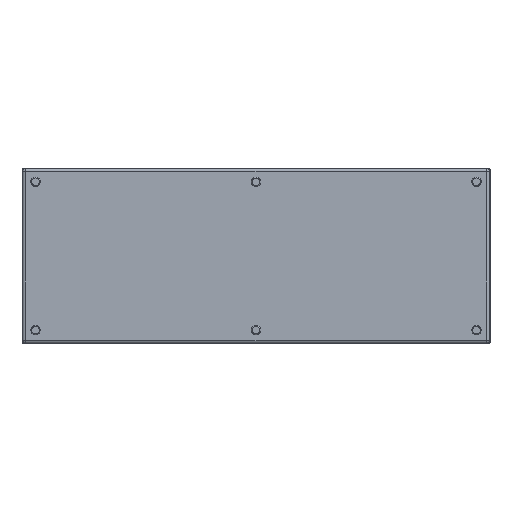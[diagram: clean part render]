
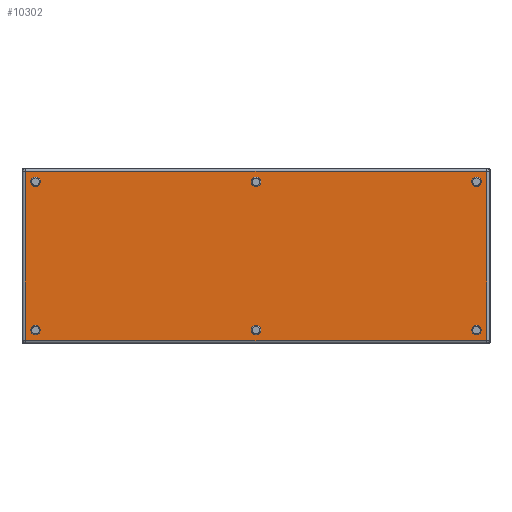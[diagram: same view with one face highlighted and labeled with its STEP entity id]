
A CAD part, top view. The second image highlights one B-rep face of the part: STEP entity #10302.
In plain terms, the highlighted planar face has unit normal (0, 0, 1).
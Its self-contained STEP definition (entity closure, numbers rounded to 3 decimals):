
#48 = DIRECTION ( 'NONE',  ( -1., 0., 0. ) ) ;
#67 = EDGE_CURVE ( 'NONE', #8095, #8095, #1846, .T. ) ;
#163 = CARTESIAN_POINT ( 'NONE',  ( -384.8, 126.8, 0. ) ) ;
#200 = EDGE_LOOP ( 'NONE', ( #3136 ) ) ;
#438 = DIRECTION ( 'NONE',  ( 0., 0., 1. ) ) ;
#527 = CIRCLE ( 'NONE', #9527, 0.8 ) ;
#556 = FACE_OUTER_BOUND ( 'NONE', #2582, .T. ) ;
#633 = DIRECTION ( 'NONE',  ( 0., 0., 1. ) ) ;
#995 = ORIENTED_EDGE ( 'NONE', *, *, #5868, .T. ) ;
#1022 = CIRCLE ( 'NONE', #7042, 8. ) ;
#1077 = CIRCLE ( 'NONE', #3826, 0.8 ) ;
#1103 = AXIS2_PLACEMENT_3D ( 'NONE', #4346, #5182, #2823 ) ;
#1149 = EDGE_CURVE ( 'NONE', #3422, #3422, #3436, .T. ) ;
#1161 = VERTEX_POINT ( 'NONE', #6690 ) ;
#1179 = EDGE_LOOP ( 'NONE', ( #7418 ) ) ;
#1259 = EDGE_LOOP ( 'NONE', ( #1441 ) ) ;
#1289 = CARTESIAN_POINT ( 'NONE',  ( -8., -126.8, 0. ) ) ;
#1333 = LINE ( 'NONE', #5635, #5962 ) ;
#1439 = EDGE_CURVE ( 'NONE', #8204, #8204, #1022, .T. ) ;
#1441 = ORIENTED_EDGE ( 'NONE', *, *, #4759, .F. ) ;
#1484 = CARTESIAN_POINT ( 'NONE',  ( 394., 144., 0. ) ) ;
#1521 = CARTESIAN_POINT ( 'NONE',  ( -394.8, -144., 0. ) ) ;
#1615 = ORIENTED_EDGE ( 'NONE', *, *, #7168, .T. ) ;
#1678 = ORIENTED_EDGE ( 'NONE', *, *, #5091, .T. ) ;
#1846 = CIRCLE ( 'NONE', #3225, 8. ) ;
#1860 = CARTESIAN_POINT ( 'NONE',  ( -394., 144.8, 0. ) ) ;
#1891 = DIRECTION ( 'NONE',  ( -1., 0., 0. ) ) ;
#1933 = ORIENTED_EDGE ( 'NONE', *, *, #10248, .T. ) ;
#1994 = FACE_BOUND ( 'NONE', #200, .T. ) ;
#1995 = CARTESIAN_POINT ( 'NONE',  ( -394., -144., 0. ) ) ;
#2048 = FACE_BOUND ( 'NONE', #8635, .T. ) ;
#2049 = DIRECTION ( 'NONE',  ( 0., 0., 1. ) ) ;
#2199 = LINE ( 'NONE', #3975, #7664 ) ;
#2201 = DIRECTION ( 'NONE',  ( -1., 0., 0. ) ) ;
#2289 = EDGE_CURVE ( 'NONE', #10183, #10183, #2620, .T. ) ;
#2413 = CARTESIAN_POINT ( 'NONE',  ( 0., 126.8, 0. ) ) ;
#2443 = EDGE_CURVE ( 'NONE', #1161, #3205, #1077, .T. ) ;
#2471 = ORIENTED_EDGE ( 'NONE', *, *, #2443, .T. ) ;
#2510 = VERTEX_POINT ( 'NONE', #9829 ) ;
#2582 = EDGE_LOOP ( 'NONE', ( #2471, #4793, #5721, #995, #6500, #1933, #1678, #1615 ) ) ;
#2620 = CIRCLE ( 'NONE', #6228, 8. ) ;
#2823 = DIRECTION ( 'NONE',  ( -1., 0., 0. ) ) ;
#2879 = EDGE_CURVE ( 'NONE', #8971, #9799, #527, .T. ) ;
#2976 = DIRECTION ( 'NONE',  ( -1., 0., 0. ) ) ;
#3108 = ORIENTED_EDGE ( 'NONE', *, *, #2289, .T. ) ;
#3136 = ORIENTED_EDGE ( 'NONE', *, *, #1439, .T. ) ;
#3205 = VERTEX_POINT ( 'NONE', #9533 ) ;
#3225 = AXIS2_PLACEMENT_3D ( 'NONE', #9466, #6162, #6107 ) ;
#3253 = CARTESIAN_POINT ( 'NONE',  ( 376.8, -126.8, 0. ) ) ;
#3274 = AXIS2_PLACEMENT_3D ( 'NONE', #8808, #8573, #5322 ) ;
#3422 = VERTEX_POINT ( 'NONE', #4854 ) ;
#3436 = CIRCLE ( 'NONE', #5305, 8. ) ;
#3533 = VERTEX_POINT ( 'NONE', #1860 ) ;
#3592 = EDGE_LOOP ( 'NONE', ( #9910 ) ) ;
#3743 = CARTESIAN_POINT ( 'NONE',  ( 368.8, 126.8, 0. ) ) ;
#3826 = AXIS2_PLACEMENT_3D ( 'NONE', #4792, #6407, #9771 ) ;
#3834 = CARTESIAN_POINT ( 'NONE',  ( -376.8, -126.8, 0. ) ) ;
#3854 = FACE_BOUND ( 'NONE', #9112, .T. ) ;
#3917 = CARTESIAN_POINT ( 'NONE',  ( -394.8, -144., 0. ) ) ;
#3975 = CARTESIAN_POINT ( 'NONE',  ( -394., 144.8, 0. ) ) ;
#4139 = VERTEX_POINT ( 'NONE', #7408 ) ;
#4238 = VERTEX_POINT ( 'NONE', #7402 ) ;
#4292 = ORIENTED_EDGE ( 'NONE', *, *, #67, .T. ) ;
#4346 = CARTESIAN_POINT ( 'NONE',  ( -394., 144., 0. ) ) ;
#4552 = AXIS2_PLACEMENT_3D ( 'NONE', #4692, #438, #5435 ) ;
#4692 = CARTESIAN_POINT ( 'NONE',  ( 0., -126.8, 0. ) ) ;
#4724 = DIRECTION ( 'NONE',  ( -1., 0., 0. ) ) ;
#4725 = EDGE_CURVE ( 'NONE', #3533, #2510, #8676, .T. ) ;
#4726 = LINE ( 'NONE', #10522, #6956 ) ;
#4759 = EDGE_CURVE ( 'NONE', #10429, #10429, #10261, .T. ) ;
#4792 = CARTESIAN_POINT ( 'NONE',  ( 394., -144., 0. ) ) ;
#4793 = ORIENTED_EDGE ( 'NONE', *, *, #5141, .T. ) ;
#4854 = CARTESIAN_POINT ( 'NONE',  ( 368.8, -126.8, 0. ) ) ;
#4948 = CARTESIAN_POINT ( 'NONE',  ( 394., 144.8, 0. ) ) ;
#5091 = EDGE_CURVE ( 'NONE', #8567, #4238, #9199, .T. ) ;
#5141 = EDGE_CURVE ( 'NONE', #3205, #8971, #4726, .T. ) ;
#5182 = DIRECTION ( 'NONE',  ( 0., 0., 1. ) ) ;
#5275 = FACE_BOUND ( 'NONE', #1179, .T. ) ;
#5276 = DIRECTION ( 'NONE',  ( -1., 0., 0. ) ) ;
#5305 = AXIS2_PLACEMENT_3D ( 'NONE', #3253, #6752, #48 ) ;
#5322 = DIRECTION ( 'NONE',  ( -1., 0., 0. ) ) ;
#5435 = DIRECTION ( 'NONE',  ( -1., 0., 0. ) ) ;
#5635 = CARTESIAN_POINT ( 'NONE',  ( 394., -144.8, 0. ) ) ;
#5721 = ORIENTED_EDGE ( 'NONE', *, *, #2879, .T. ) ;
#5868 = EDGE_CURVE ( 'NONE', #9799, #3533, #2199, .T. ) ;
#5962 = VECTOR ( 'NONE', #7208, 1000. ) ;
#5997 = CARTESIAN_POINT ( 'NONE',  ( -376.8, 126.8, 0. ) ) ;
#6106 = DIRECTION ( 'NONE',  ( -1., 0., 0. ) ) ;
#6107 = DIRECTION ( 'NONE',  ( -1., 0., 0. ) ) ;
#6145 = FACE_BOUND ( 'NONE', #3592, .T. ) ;
#6162 = DIRECTION ( 'NONE',  ( 0., 0., -1. ) ) ;
#6228 = AXIS2_PLACEMENT_3D ( 'NONE', #5997, #7070, #6106 ) ;
#6323 = PLANE ( 'NONE',  #3274 ) ;
#6355 = VECTOR ( 'NONE', #10558, 1000. ) ;
#6393 = DIRECTION ( 'NONE',  ( 0., 0., 1. ) ) ;
#6407 = DIRECTION ( 'NONE',  ( 0., 0., 1. ) ) ;
#6500 = ORIENTED_EDGE ( 'NONE', *, *, #4725, .T. ) ;
#6690 = CARTESIAN_POINT ( 'NONE',  ( 394., -144.8, 0. ) ) ;
#6752 = DIRECTION ( 'NONE',  ( 0., 0., -1. ) ) ;
#6956 = VECTOR ( 'NONE', #8070, 1000. ) ;
#7042 = AXIS2_PLACEMENT_3D ( 'NONE', #3834, #9714, #2976 ) ;
#7070 = DIRECTION ( 'NONE',  ( 0., 0., -1. ) ) ;
#7168 = EDGE_CURVE ( 'NONE', #4238, #1161, #1333, .T. ) ;
#7208 = DIRECTION ( 'NONE',  ( 1., 0., 0. ) ) ;
#7402 = CARTESIAN_POINT ( 'NONE',  ( -394., -144.8, 0. ) ) ;
#7408 = CARTESIAN_POINT ( 'NONE',  ( -8., 126.8, 0. ) ) ;
#7418 = ORIENTED_EDGE ( 'NONE', *, *, #1149, .T. ) ;
#7561 = AXIS2_PLACEMENT_3D ( 'NONE', #2413, #633, #1891 ) ;
#7664 = VECTOR ( 'NONE', #4724, 1000. ) ;
#8070 = DIRECTION ( 'NONE',  ( 0., 1., 0. ) ) ;
#8095 = VERTEX_POINT ( 'NONE', #3743 ) ;
#8204 = VERTEX_POINT ( 'NONE', #10650 ) ;
#8567 = VERTEX_POINT ( 'NONE', #3917 ) ;
#8573 = DIRECTION ( 'NONE',  ( 0., 0., -1. ) ) ;
#8635 = EDGE_LOOP ( 'NONE', ( #4292 ) ) ;
#8676 = CIRCLE ( 'NONE', #1103, 0.8 ) ;
#8713 = CARTESIAN_POINT ( 'NONE',  ( 394.8, 144., 0. ) ) ;
#8808 = CARTESIAN_POINT ( 'NONE',  ( 394., 144., 0. ) ) ;
#8919 = LINE ( 'NONE', #1521, #6355 ) ;
#8971 = VERTEX_POINT ( 'NONE', #8713 ) ;
#9112 = EDGE_LOOP ( 'NONE', ( #3108 ) ) ;
#9199 = CIRCLE ( 'NONE', #10418, 0.8 ) ;
#9466 = CARTESIAN_POINT ( 'NONE',  ( 376.8, 126.8, 0. ) ) ;
#9527 = AXIS2_PLACEMENT_3D ( 'NONE', #1484, #6393, #2201 ) ;
#9533 = CARTESIAN_POINT ( 'NONE',  ( 394.8, -144., 0. ) ) ;
#9714 = DIRECTION ( 'NONE',  ( 0., 0., -1. ) ) ;
#9771 = DIRECTION ( 'NONE',  ( -1., 0., 0. ) ) ;
#9799 = VERTEX_POINT ( 'NONE', #4948 ) ;
#9829 = CARTESIAN_POINT ( 'NONE',  ( -394.8, 144., 0. ) ) ;
#9910 = ORIENTED_EDGE ( 'NONE', *, *, #9985, .F. ) ;
#9985 = EDGE_CURVE ( 'NONE', #4139, #4139, #9996, .T. ) ;
#9996 = CIRCLE ( 'NONE', #7561, 8. ) ;
#10183 = VERTEX_POINT ( 'NONE', #163 ) ;
#10248 = EDGE_CURVE ( 'NONE', #2510, #8567, #8919, .T. ) ;
#10261 = CIRCLE ( 'NONE', #4552, 8. ) ;
#10302 = ADVANCED_FACE ( 'NONE', ( #10453, #6145, #1994, #5275, #2048, #3854, #556 ), #6323, .F. ) ;
#10418 = AXIS2_PLACEMENT_3D ( 'NONE', #1995, #2049, #5276 ) ;
#10429 = VERTEX_POINT ( 'NONE', #1289 ) ;
#10453 = FACE_BOUND ( 'NONE', #1259, .T. ) ;
#10522 = CARTESIAN_POINT ( 'NONE',  ( 394.8, 144., 0. ) ) ;
#10558 = DIRECTION ( 'NONE',  ( 0., -1., 0. ) ) ;
#10650 = CARTESIAN_POINT ( 'NONE',  ( -384.8, -126.8, 0. ) ) ;
